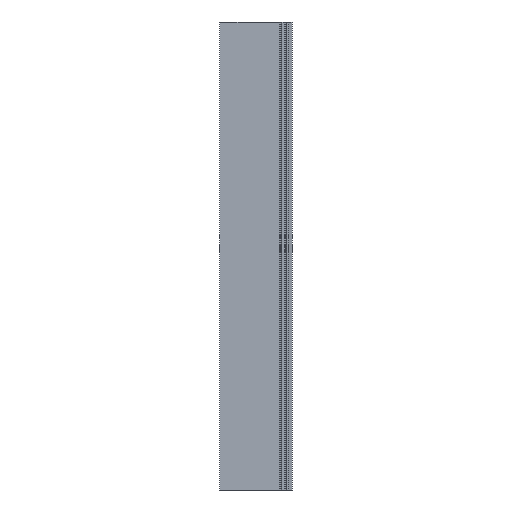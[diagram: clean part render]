
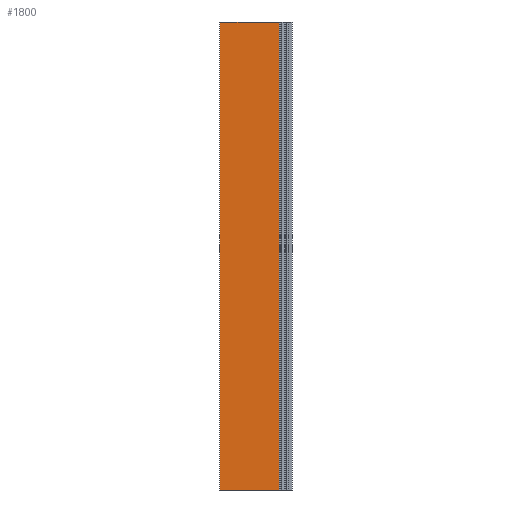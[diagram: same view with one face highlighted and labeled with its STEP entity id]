
A CAD part, front view. The second image highlights one B-rep face of the part: STEP entity #1800.
In plain terms, the highlighted planar face has unit normal (0, -1, 0).
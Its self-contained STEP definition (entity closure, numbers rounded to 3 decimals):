
#38 = VERTEX_POINT ( 'NONE', #341 ) ;
#71 = LINE ( 'NONE', #1634, #1332 ) ;
#127 = EDGE_CURVE ( 'NONE', #1505, #1717, #996, .T. ) ;
#177 = PLANE ( 'NONE',  #418 ) ;
#186 = DIRECTION ( 'NONE',  ( 0., 0., 1. ) ) ;
#282 = CARTESIAN_POINT ( 'NONE',  ( 0., 0., -609.6 ) ) ;
#288 = CARTESIAN_POINT ( 'NONE',  ( 155.346, 0., -609.6 ) ) ;
#324 = VECTOR ( 'NONE', #1767, 1000. ) ;
#329 = ORIENTED_EDGE ( 'NONE', *, *, #1861, .T. ) ;
#341 = CARTESIAN_POINT ( 'NONE',  ( 155.346, 0., 609.6 ) ) ;
#403 = DIRECTION ( 'NONE',  ( 0., -1., 0. ) ) ;
#412 = CARTESIAN_POINT ( 'NONE',  ( 0., 0., 609.6 ) ) ;
#418 = AXIS2_PLACEMENT_3D ( 'NONE', #684, #403, #992 ) ;
#543 = CARTESIAN_POINT ( 'NONE',  ( 155.346, 0., -609.6 ) ) ;
#665 = CARTESIAN_POINT ( 'NONE',  ( 0., 0., 609.6 ) ) ;
#679 = DIRECTION ( 'NONE',  ( 1., 0., 0. ) ) ;
#684 = CARTESIAN_POINT ( 'NONE',  ( 0., 0., -609.6 ) ) ;
#770 = ORIENTED_EDGE ( 'NONE', *, *, #1674, .F. ) ;
#911 = LINE ( 'NONE', #288, #1547 ) ;
#992 = DIRECTION ( 'NONE',  ( 1., 0., 0. ) ) ;
#996 = LINE ( 'NONE', #1888, #1511 ) ;
#1023 = ORIENTED_EDGE ( 'NONE', *, *, #127, .F. ) ;
#1104 = EDGE_CURVE ( 'NONE', #1505, #1166, #71, .T. ) ;
#1166 = VERTEX_POINT ( 'NONE', #543 ) ;
#1168 = ORIENTED_EDGE ( 'NONE', *, *, #1104, .T. ) ;
#1332 = VECTOR ( 'NONE', #679, 1000. ) ;
#1489 = LINE ( 'NONE', #665, #324 ) ;
#1505 = VERTEX_POINT ( 'NONE', #282 ) ;
#1511 = VECTOR ( 'NONE', #1739, 1000. ) ;
#1547 = VECTOR ( 'NONE', #186, 1000. ) ;
#1550 = FACE_OUTER_BOUND ( 'NONE', #1806, .T. ) ;
#1634 = CARTESIAN_POINT ( 'NONE',  ( 0., 0., -609.6 ) ) ;
#1674 = EDGE_CURVE ( 'NONE', #1717, #38, #1489, .T. ) ;
#1717 = VERTEX_POINT ( 'NONE', #412 ) ;
#1739 = DIRECTION ( 'NONE',  ( 0., 0., 1. ) ) ;
#1767 = DIRECTION ( 'NONE',  ( 1., 0., 0. ) ) ;
#1800 = ADVANCED_FACE ( 'NONE', ( #1550 ), #177, .T. ) ;
#1806 = EDGE_LOOP ( 'NONE', ( #770, #1023, #1168, #329 ) ) ;
#1861 = EDGE_CURVE ( 'NONE', #1166, #38, #911, .T. ) ;
#1888 = CARTESIAN_POINT ( 'NONE',  ( 0., 0., -609.6 ) ) ;
